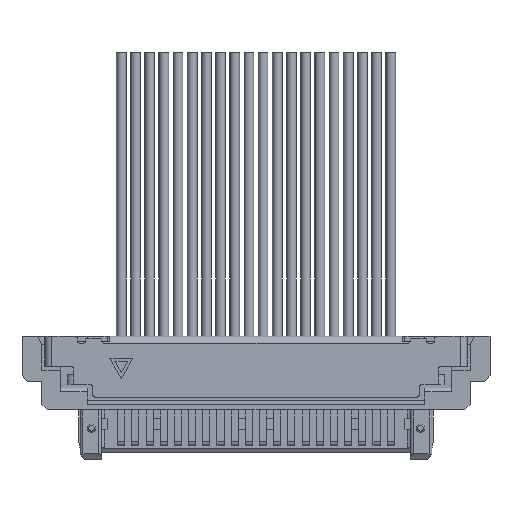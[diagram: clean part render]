
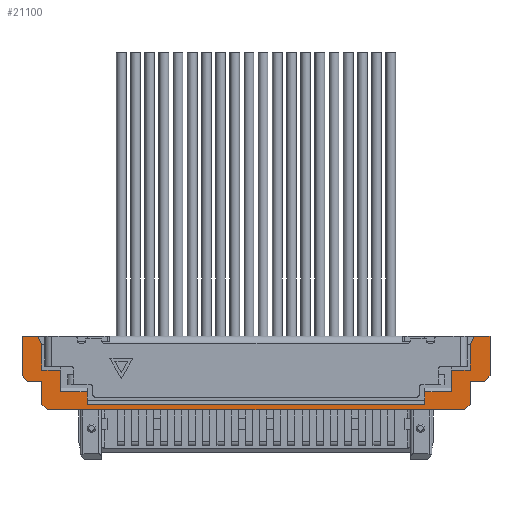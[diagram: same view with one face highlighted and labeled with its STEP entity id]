
A CAD part, top view. The second image highlights one B-rep face of the part: STEP entity #21100.
In plain terms, the highlighted planar face has unit normal (0, 0, 1).
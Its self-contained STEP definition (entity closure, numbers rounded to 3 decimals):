
#12650=CARTESIAN_POINT('',(21.027,50.912,
-0.6));
#12660=VERTEX_POINT('',#12650);
#12690=CARTESIAN_POINT('',(21.027,50.912,
-0.6));
#12700=DIRECTION('',(1.,0.,0.));
#12710=VECTOR('',#12700,1.);
#12720=LINE('',#12690,#12710);
#12730=CARTESIAN_POINT('',(21.577,50.912,
-0.6));
#12740=VERTEX_POINT('',#12730);
#12750=EDGE_CURVE('',#12660,#12740,#12720,.T.);
#14250=CARTESIAN_POINT('',(5.077,50.912,
-0.6));
#14260=VERTEX_POINT('',#14250);
#14290=CARTESIAN_POINT('',(5.627,50.912,-0.6)
);
#14300=DIRECTION('',(-1.,0.,0.));
#14310=VECTOR('',#14300,1.);
#14320=LINE('',#14290,#14310);
#14330=CARTESIAN_POINT('',(5.627,50.912,
-0.6));
#14340=VERTEX_POINT('',#14330);
#14350=EDGE_CURVE('',#14340,#14260,#14320,.T.);
#18760=CARTESIAN_POINT('',(20.877,51.212,
-0.6));
#18770=DIRECTION('',(0.447,-0.894,0.));
#18780=VECTOR('',#18770,1.);
#18790=LINE('',#18760,#18780);
#18800=CARTESIAN_POINT('',(20.877,51.212,
-0.6));
#18810=VERTEX_POINT('',#18800);
#18820=EDGE_CURVE('',#18810,#12660,#18790,.T.);
#19140=CARTESIAN_POINT('',(20.877,52.112,
-0.6));
#19150=VERTEX_POINT('',#19140);
#19180=CARTESIAN_POINT('',(20.877,51.212,
-0.6));
#19190=DIRECTION('',(0.,1.,0.));
#19200=VECTOR('',#19190,1.);
#19210=LINE('',#19180,#19200);
#19220=EDGE_CURVE('',#18810,#19150,#19210,.T.);
#19270=CARTESIAN_POINT('',(13.361,51.616,
-0.6));
#19280=DIRECTION('',(0.,0.,1.));
#19290=DIRECTION('',(-1.,0.,0.));
#19300=AXIS2_PLACEMENT_3D('',#19270,#19280,#19290);
#19310=PLANE('',#19300);
#19320=CARTESIAN_POINT('',(-47.235,0.,-0.6));
#19330=DIRECTION('',(-0.707,-0.707,0.));
#19340=VECTOR('',#19330,1.);
#19350=LINE('',#19320,#19340);
#19360=CARTESIAN_POINT('',(5.277,52.512,
-0.6));
#19370=VERTEX_POINT('',#19360);
#19380=CARTESIAN_POINT('',(5.077,52.312,
-0.6));
#19390=VERTEX_POINT('',#19380);
#19400=EDGE_CURVE('',#19370,#19390,#19350,.T.);
#19410=ORIENTED_EDGE('',*,*,#19400,.T.);
#19420=CARTESIAN_POINT('',(5.277,52.512,
-0.6));
#19430=DIRECTION('',(1.,0.,0.));
#19440=VECTOR('',#19430,1.);
#19450=LINE('',#19420,#19440);
#19460=CARTESIAN_POINT('',(5.777,52.512,
-0.6));
#19470=VERTEX_POINT('',#19460);
#19480=EDGE_CURVE('',#19370,#19470,#19450,.T.);
#19490=ORIENTED_EDGE('',*,*,#19480,.F.);
#19500=CARTESIAN_POINT('',(5.777,53.312,
-0.6));
#19510=DIRECTION('',(0.,-1.,0.));
#19520=VECTOR('',#19510,1.);
#19530=LINE('',#19500,#19520);
#19540=CARTESIAN_POINT('',(5.777,53.312,
-0.6));
#19550=VERTEX_POINT('',#19540);
#19560=EDGE_CURVE('',#19550,#19470,#19530,.T.);
#19570=ORIENTED_EDGE('',*,*,#19560,.T.);
#19580=CARTESIAN_POINT('',(5.977,53.512,
-0.6));
#19590=DIRECTION('',(-0.707,-0.707,0.));
#19600=VECTOR('',#19590,1.);
#19610=LINE('',#19580,#19600);
#19620=CARTESIAN_POINT('',(5.977,53.512,
-0.6));
#19630=VERTEX_POINT('',#19620);
#19640=EDGE_CURVE('',#19630,#19550,#19610,.T.);
#19650=ORIENTED_EDGE('',*,*,#19640,.T.);
#19660=CARTESIAN_POINT('',(5.977,53.512,
-0.6));
#19670=DIRECTION('',(1.,0.,0.));
#19680=VECTOR('',#19670,1.);
#19690=LINE('',#19660,#19680);
#19700=CARTESIAN_POINT('',(20.677,53.512,
-0.6));
#19710=VERTEX_POINT('',#19700);
#19720=EDGE_CURVE('',#19630,#19710,#19690,.T.);
#19730=ORIENTED_EDGE('',*,*,#19720,.F.);
#19740=CARTESIAN_POINT('',(20.877,53.312,-0.6
));
#19750=DIRECTION('',(-0.707,0.707,0.));
#19760=VECTOR('',#19750,1.);
#19770=LINE('',#19740,#19760);
#19780=CARTESIAN_POINT('',(20.877,53.312,-0.6
));
#19790=VERTEX_POINT('',#19780);
#19800=EDGE_CURVE('',#19790,#19710,#19770,.T.);
#19810=ORIENTED_EDGE('',*,*,#19800,.T.);
#19820=CARTESIAN_POINT('',(20.877,53.312,-0.6
));
#19830=DIRECTION('',(0.,-1.,0.));
#19840=VECTOR('',#19830,1.);
#19850=LINE('',#19820,#19840);
#19860=CARTESIAN_POINT('',(20.877,52.512,-0.6
));
#19870=VERTEX_POINT('',#19860);
#19880=EDGE_CURVE('',#19790,#19870,#19850,.T.);
#19890=ORIENTED_EDGE('',*,*,#19880,.F.);
#19900=CARTESIAN_POINT('',(21.377,52.512,
-0.6));
#19910=DIRECTION('',(-1.,0.,0.));
#19920=VECTOR('',#19910,1.);
#19930=LINE('',#19900,#19920);
#19940=CARTESIAN_POINT('',(21.377,52.512,
-0.6));
#19950=VERTEX_POINT('',#19940);
#19960=EDGE_CURVE('',#19950,#19870,#19930,.T.);
#19970=ORIENTED_EDGE('',*,*,#19960,.T.);
#19980=CARTESIAN_POINT('',(73.888,0.,-0.6));
#19990=DIRECTION('',(-0.707,0.707,0.));
#20000=VECTOR('',#19990,1.);
#20010=LINE('',#19980,#20000);
#20020=CARTESIAN_POINT('',(21.577,52.312,
-0.6));
#20030=VERTEX_POINT('',#20020);
#20040=EDGE_CURVE('',#20030,#19950,#20010,.T.);
#20050=ORIENTED_EDGE('',*,*,#20040,.T.);
#20060=CARTESIAN_POINT('',(21.577,0.,-0.6));
#20070=DIRECTION('',(0.,-1.,0.));
#20080=VECTOR('',#20070,1.);
#20090=LINE('',#20060,#20080);
#20100=EDGE_CURVE('',#20030,#12740,#20090,.T.);
#20110=ORIENTED_EDGE('',*,*,#20100,.F.);
#20120=ORIENTED_EDGE('',*,*,#12750,.T.);
#20130=ORIENTED_EDGE('',*,*,#18820,.T.);
#20140=ORIENTED_EDGE('',*,*,#19220,.F.);
#20150=CARTESIAN_POINT('',(20.877,52.112,
-0.6));
#20160=DIRECTION('',(-1.,0.,0.));
#20170=VECTOR('',#20160,1.);
#20180=LINE('',#20150,#20170);
#20190=CARTESIAN_POINT('',(20.227,52.112,
-0.6));
#20200=VERTEX_POINT('',#20190);
#20210=EDGE_CURVE('',#19150,#20200,#20180,.T.);
#20220=ORIENTED_EDGE('',*,*,#20210,.F.);
#20230=CARTESIAN_POINT('',(20.227,52.112,
-0.6));
#20240=DIRECTION('',(0.,1.,0.));
#20250=VECTOR('',#20240,1.);
#20260=LINE('',#20230,#20250);
#20270=CARTESIAN_POINT('',(20.227,52.872,
-0.6));
#20280=VERTEX_POINT('',#20270);
#20290=EDGE_CURVE('',#20200,#20280,#20260,.T.);
#20300=ORIENTED_EDGE('',*,*,#20290,.F.);
#20310=CARTESIAN_POINT('',(19.277,52.872,
-0.6));
#20320=DIRECTION('',(1.,0.,0.));
#20330=VECTOR('',#20320,1.);
#20340=LINE('',#20310,#20330);
#20350=CARTESIAN_POINT('',(19.277,52.872,
-0.6));
#20360=VERTEX_POINT('',#20350);
#20370=EDGE_CURVE('',#20360,#20280,#20340,.T.);
#20380=ORIENTED_EDGE('',*,*,#20370,.T.);
#20390=CARTESIAN_POINT('',(19.277,52.872,
-0.6));
#20400=DIRECTION('',(0.,1.,0.));
#20410=VECTOR('',#20400,1.);
#20420=LINE('',#20390,#20410);
#20430=CARTESIAN_POINT('',(19.277,53.322,
-0.6));
#20440=VERTEX_POINT('',#20430);
#20450=EDGE_CURVE('',#20360,#20440,#20420,.T.);
#20460=ORIENTED_EDGE('',*,*,#20450,.F.);
#20470=CARTESIAN_POINT('',(19.277,53.322,
-0.6));
#20480=DIRECTION('',(-1.,0.,0.));
#20490=VECTOR('',#20480,1.);
#20500=LINE('',#20470,#20490);
#20510=CARTESIAN_POINT('',(7.377,53.322,
-0.6));
#20520=VERTEX_POINT('',#20510);
#20530=EDGE_CURVE('',#20440,#20520,#20500,.T.);
#20540=ORIENTED_EDGE('',*,*,#20530,.F.);
#20550=CARTESIAN_POINT('',(7.377,52.872,
-0.6));
#20560=DIRECTION('',(0.,1.,0.));
#20570=VECTOR('',#20560,1.);
#20580=LINE('',#20550,#20570);
#20590=CARTESIAN_POINT('',(7.377,52.872,
-0.6));
#20600=VERTEX_POINT('',#20590);
#20610=EDGE_CURVE('',#20600,#20520,#20580,.T.);
#20620=ORIENTED_EDGE('',*,*,#20610,.T.);
#20630=CARTESIAN_POINT('',(7.377,52.872,
-0.6));
#20640=DIRECTION('',(-1.,0.,0.));
#20650=VECTOR('',#20640,1.);
#20660=LINE('',#20630,#20650);
#20670=CARTESIAN_POINT('',(6.427,52.872,
-0.6));
#20680=VERTEX_POINT('',#20670);
#20690=EDGE_CURVE('',#20600,#20680,#20660,.T.);
#20700=ORIENTED_EDGE('',*,*,#20690,.F.);
#20710=CARTESIAN_POINT('',(6.427,52.112,
-0.6));
#20720=DIRECTION('',(0.,1.,0.));
#20730=VECTOR('',#20720,1.);
#20740=LINE('',#20710,#20730);
#20750=CARTESIAN_POINT('',(6.427,52.112,
-0.6));
#20760=VERTEX_POINT('',#20750);
#20770=EDGE_CURVE('',#20760,#20680,#20740,.T.);
#20780=ORIENTED_EDGE('',*,*,#20770,.T.);
#20790=CARTESIAN_POINT('',(5.777,52.112,
-0.6));
#20800=DIRECTION('',(1.,0.,0.));
#20810=VECTOR('',#20800,1.);
#20820=LINE('',#20790,#20810);
#20830=CARTESIAN_POINT('',(5.777,52.112,
-0.6));
#20840=VERTEX_POINT('',#20830);
#20850=EDGE_CURVE('',#20840,#20760,#20820,.T.);
#20860=ORIENTED_EDGE('',*,*,#20850,.T.);
#20870=CARTESIAN_POINT('',(5.777,51.212,
-0.6));
#20880=DIRECTION('',(0.,1.,0.));
#20890=VECTOR('',#20880,1.);
#20900=LINE('',#20870,#20890);
#20910=CARTESIAN_POINT('',(5.777,51.212,
-0.6));
#20920=VERTEX_POINT('',#20910);
#20930=EDGE_CURVE('',#20920,#20840,#20900,.T.);
#20940=ORIENTED_EDGE('',*,*,#20930,.T.);
#20950=CARTESIAN_POINT('',(5.627,50.912,
-0.6));
#20960=DIRECTION('',(0.447,0.894,0.));
#20970=VECTOR('',#20960,1.);
#20980=LINE('',#20950,#20970);
#20990=EDGE_CURVE('',#14340,#20920,#20980,.T.);
#21000=ORIENTED_EDGE('',*,*,#20990,.T.);
#21010=ORIENTED_EDGE('',*,*,#14350,.F.);
#21020=CARTESIAN_POINT('',(5.077,0.,-0.6));
#21030=DIRECTION('',(0.,1.,0.));
#21040=VECTOR('',#21030,1.);
#21050=LINE('',#21020,#21040);
#21060=EDGE_CURVE('',#14260,#19390,#21050,.T.);
#21070=ORIENTED_EDGE('',*,*,#21060,.F.);
#21080=EDGE_LOOP('',(#21070,#21010,#21000,#20940,#20860,#20780,#20700,
#20620,#20540,#20460,#20380,#20300,#20220,#20140,#20130,#20120,#20110,
#20050,#19970,#19890,#19810,#19730,#19650,#19570,#19490,#19410));
#21090=FACE_OUTER_BOUND('',#21080,.T.);
#21100=ADVANCED_FACE('',(#21090),#19310,.T.);
